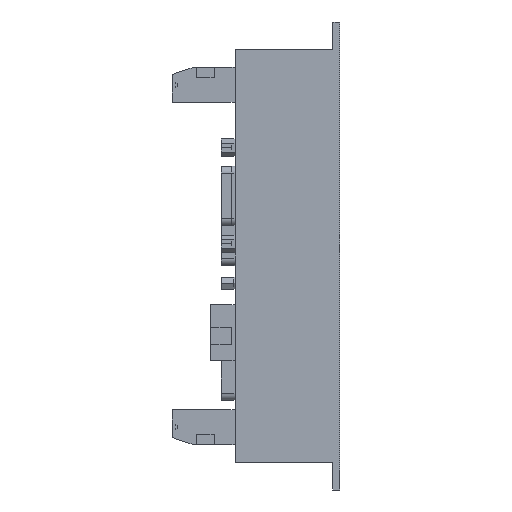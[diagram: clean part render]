
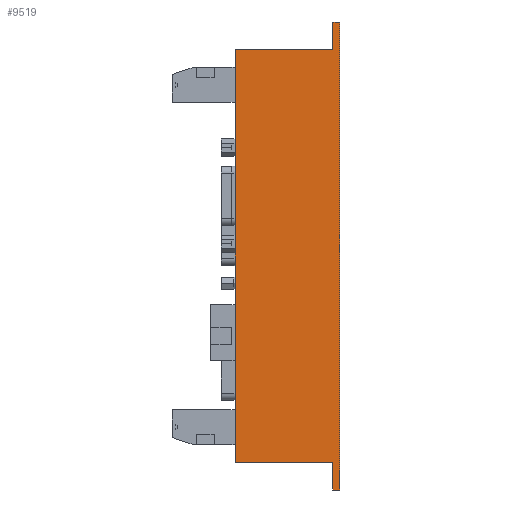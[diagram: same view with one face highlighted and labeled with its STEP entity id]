
A CAD part, left-side view. The second image highlights one B-rep face of the part: STEP entity #9519.
In plain terms, the highlighted planar face has unit normal (-1, 0, 0).
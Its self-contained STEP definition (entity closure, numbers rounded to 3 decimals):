
#436 = DIRECTION ( 'NONE',  ( 0., 0., 1. ) ) ;
#1061 = LINE ( 'NONE', #7909, #67585 ) ;
#1303 = EDGE_CURVE ( 'NONE', #36924, #7660, #50182, .T. ) ;
#1590 = VERTEX_POINT ( 'NONE', #32115 ) ;
#1755 = EDGE_CURVE ( 'NONE', #1590, #52538, #20801, .T. ) ;
#2592 = EDGE_CURVE ( 'NONE', #59660, #1590, #67319, .T. ) ;
#2915 = ORIENTED_EDGE ( 'NONE', *, *, #62291, .F. ) ;
#5220 = CARTESIAN_POINT ( 'NONE',  ( 0., 0., 75.703 ) ) ;
#6355 = VECTOR ( 'NONE', #40278, 1000. ) ;
#6661 = ORIENTED_EDGE ( 'NONE', *, *, #1303, .F. ) ;
#7189 = LINE ( 'NONE', #5220, #34877 ) ;
#7208 = CARTESIAN_POINT ( 'NONE',  ( 0., 2., 75.703 ) ) ;
#7660 = VERTEX_POINT ( 'NONE', #69377 ) ;
#7909 = CARTESIAN_POINT ( 'NONE',  ( 0., 30., 67.703 ) ) ;
#8617 = ORIENTED_EDGE ( 'NONE', *, *, #1755, .F. ) ;
#9519 = ADVANCED_FACE ( 'NONE', ( #67342 ), #43235, .F. ) ;
#9839 = ORIENTED_EDGE ( 'NONE', *, *, #62759, .F. ) ;
#9992 = DIRECTION ( 'NONE',  ( 0., 0., 1. ) ) ;
#10189 = EDGE_LOOP ( 'NONE', ( #9839, #6661, #27125, #8617, #50628, #17602, #2915, #29496 ) ) ;
#12407 = VERTEX_POINT ( 'NONE', #15928 ) ;
#15243 = LINE ( 'NONE', #34332, #64476 ) ;
#15753 = DIRECTION ( 'NONE',  ( 0., 0., -1. ) ) ;
#15928 = CARTESIAN_POINT ( 'NONE',  ( 0., 0., 75.703 ) ) ;
#16411 = VECTOR ( 'NONE', #9992, 1000. ) ;
#17602 = ORIENTED_EDGE ( 'NONE', *, *, #66086, .F. ) ;
#18180 = LINE ( 'NONE', #48362, #16411 ) ;
#20094 = CARTESIAN_POINT ( 'NONE',  ( 0., 30., 67.703 ) ) ;
#20801 = LINE ( 'NONE', #66590, #48358 ) ;
#22455 = CARTESIAN_POINT ( 'NONE',  ( 0., 0., -58.297 ) ) ;
#24007 = VERTEX_POINT ( 'NONE', #22455 ) ;
#27125 = ORIENTED_EDGE ( 'NONE', *, *, #48554, .F. ) ;
#29496 = ORIENTED_EDGE ( 'NONE', *, *, #57142, .F. ) ;
#32115 = CARTESIAN_POINT ( 'NONE',  ( 0., 30., -50.297 ) ) ;
#32257 = LINE ( 'NONE', #7208, #6355 ) ;
#34332 = CARTESIAN_POINT ( 'NONE',  ( 0., 0., -58.297 ) ) ;
#34877 = VECTOR ( 'NONE', #49363, 1000. ) ;
#35563 = VECTOR ( 'NONE', #39494, 1000. ) ;
#36924 = VERTEX_POINT ( 'NONE', #53779 ) ;
#39494 = DIRECTION ( 'NONE',  ( 0., 0., 1. ) ) ;
#40278 = DIRECTION ( 'NONE',  ( 0., -1., 0. ) ) ;
#40965 = DIRECTION ( 'NONE',  ( 0., -1., 0. ) ) ;
#43235 = PLANE ( 'NONE',  #68323 ) ;
#48358 = VECTOR ( 'NONE', #436, 1000. ) ;
#48362 = CARTESIAN_POINT ( 'NONE',  ( 0., 2., -58.297 ) ) ;
#48554 = EDGE_CURVE ( 'NONE', #52538, #36924, #1061, .T. ) ;
#48774 = DIRECTION ( 'NONE',  ( 1., 0., 0. ) ) ;
#49363 = DIRECTION ( 'NONE',  ( 0., 0., -1. ) ) ;
#50182 = LINE ( 'NONE', #55890, #35563 ) ;
#50628 = ORIENTED_EDGE ( 'NONE', *, *, #2592, .F. ) ;
#52538 = VERTEX_POINT ( 'NONE', #20094 ) ;
#52652 = VECTOR ( 'NONE', #54829, 1000. ) ;
#53135 = VERTEX_POINT ( 'NONE', #71092 ) ;
#53779 = CARTESIAN_POINT ( 'NONE',  ( 0., 2., 67.703 ) ) ;
#53904 = CARTESIAN_POINT ( 'NONE',  ( 0., 0., 0. ) ) ;
#54829 = DIRECTION ( 'NONE',  ( 0., 1., 0. ) ) ;
#55890 = CARTESIAN_POINT ( 'NONE',  ( 0., 2., 67.703 ) ) ;
#57142 = EDGE_CURVE ( 'NONE', #12407, #24007, #7189, .T. ) ;
#59660 = VERTEX_POINT ( 'NONE', #62165 ) ;
#62165 = CARTESIAN_POINT ( 'NONE',  ( 0., 2., -50.297 ) ) ;
#62291 = EDGE_CURVE ( 'NONE', #24007, #53135, #15243, .T. ) ;
#62759 = EDGE_CURVE ( 'NONE', #7660, #12407, #32257, .T. ) ;
#64476 = VECTOR ( 'NONE', #67370, 1000. ) ;
#66086 = EDGE_CURVE ( 'NONE', #53135, #59660, #18180, .T. ) ;
#66590 = CARTESIAN_POINT ( 'NONE',  ( 0., 30., -50.297 ) ) ;
#67319 = LINE ( 'NONE', #71018, #52652 ) ;
#67342 = FACE_OUTER_BOUND ( 'NONE', #10189, .T. ) ;
#67370 = DIRECTION ( 'NONE',  ( 0., 1., 0. ) ) ;
#67585 = VECTOR ( 'NONE', #40965, 1000. ) ;
#68323 = AXIS2_PLACEMENT_3D ( 'NONE', #53904, #48774, #15753 ) ;
#69377 = CARTESIAN_POINT ( 'NONE',  ( 0., 2., 75.703 ) ) ;
#71018 = CARTESIAN_POINT ( 'NONE',  ( 0., 2., -50.297 ) ) ;
#71092 = CARTESIAN_POINT ( 'NONE',  ( 0., 2., -58.297 ) ) ;
